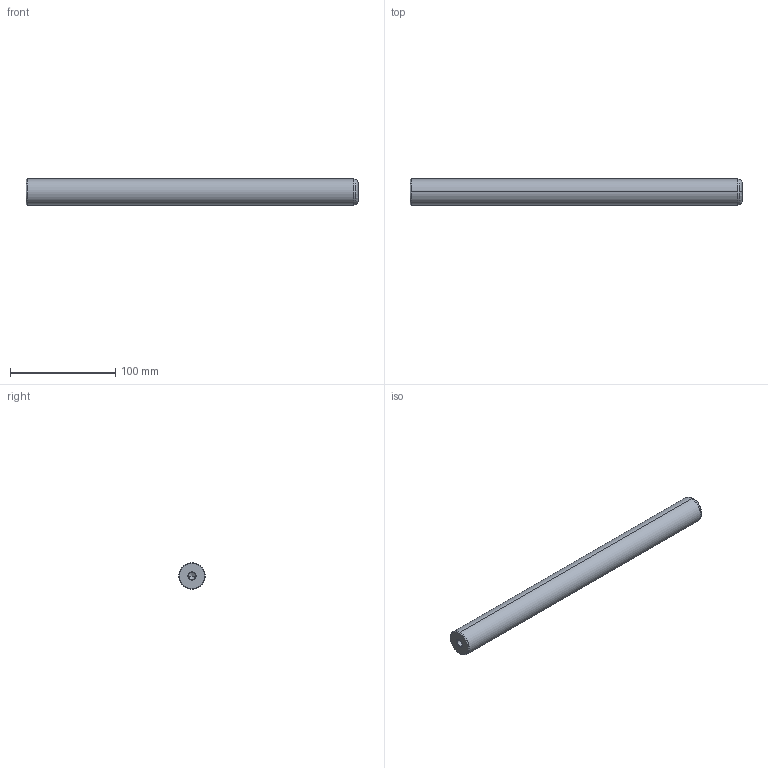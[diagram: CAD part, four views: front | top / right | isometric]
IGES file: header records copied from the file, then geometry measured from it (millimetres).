
Start section: START RECORD GO HERE.
Global section: file name: 720-25x315.igs; native system: DASSAULT SYSTEMES CATIA V5 R20 - www.3ds.com; preprocessor: CATIA Version 5 Release 20 ; author: Utente; organization: NB04-ASUS; date: 20210101.133847; units: millimetre
Bounding box: 315 x 25 x 25 mm (x, y, z)
Surface area: 26550.7 mm2 (no closed solid volume)
Topology: 0 solids, 0 shells, 22 faces, 120 edges, 116 vertices
Faces by surface type: revolution 20, plane 2
